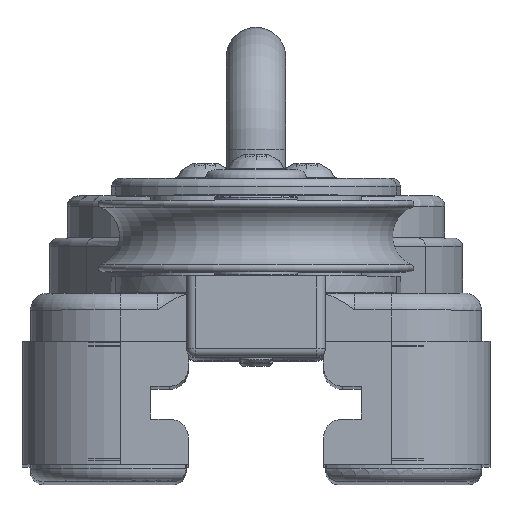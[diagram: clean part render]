
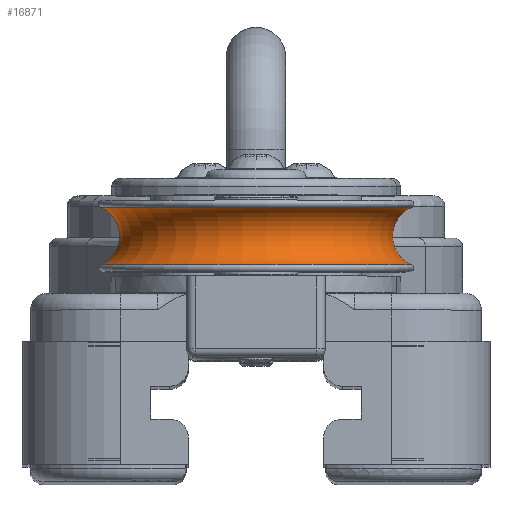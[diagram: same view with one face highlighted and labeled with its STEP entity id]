
A CAD part, top view. The second image highlights one B-rep face of the part: STEP entity #16871.
In plain terms, the highlighted toroidal (fillet/blend) face has major radius 39.9 mm and minor radius 7.4 mm.
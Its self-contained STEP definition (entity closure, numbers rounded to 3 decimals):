
#471=TOROIDAL_SURFACE('',#18166,39.9,7.4);
#1215=FACE_OUTER_BOUND('',#2292,.T.);
#2292=EDGE_LOOP('',(#11897,#11898,#11899,#11900));
#3446=CIRCLE('',#18096,36.963);
#3492=CIRCLE('',#18167,36.963);
#3493=CIRCLE('',#18168,7.4);
#7173=VERTEX_POINT('',#26793);
#7224=VERTEX_POINT('',#27035);
#8913=EDGE_CURVE('',#7173,#7173,#3446,.T.);
#8988=EDGE_CURVE('',#7224,#7224,#3492,.T.);
#8989=EDGE_CURVE('',#7224,#7173,#3493,.T.);
#11897=ORIENTED_EDGE('',*,*,#8988,.T.);
#11898=ORIENTED_EDGE('',*,*,#8989,.T.);
#11899=ORIENTED_EDGE('',*,*,#8913,.F.);
#11900=ORIENTED_EDGE('',*,*,#8989,.F.);
#16871=ADVANCED_FACE('',(#1215),#471,.F.);
#18096=AXIS2_PLACEMENT_3D('',#26795,#20670,#20671);
#18166=AXIS2_PLACEMENT_3D('',#27034,#20821,#20822);
#18167=AXIS2_PLACEMENT_3D('',#27036,#20823,#20824);
#18168=AXIS2_PLACEMENT_3D('',#27037,#20825,#20826);
#20670=DIRECTION('center_axis',(0.,1.,0.));
#20671=DIRECTION('ref_axis',(-0.433,0.,0.901));
#20821=DIRECTION('center_axis',(0.,1.,0.));
#20822=DIRECTION('ref_axis',(-0.901,0.,-0.433));
#20823=DIRECTION('center_axis',(0.,1.,0.));
#20824=DIRECTION('ref_axis',(-0.433,0.,0.901));
#20825=DIRECTION('center_axis',(0.433,0.,
-0.901));
#20826=DIRECTION('ref_axis',(0.901,0.,0.433));
#26793=CARTESIAN_POINT('',(33.312,46.292,241.768));
#26795=CARTESIAN_POINT('Origin',(0.,46.292,
225.75));
#27034=CARTESIAN_POINT('Origin',(0.,39.5,225.75));
#27035=CARTESIAN_POINT('',(33.312,32.708,241.768));
#27036=CARTESIAN_POINT('Origin',(0.,32.708,
225.75));
#27037=CARTESIAN_POINT('Origin',(35.959,39.5,243.041));
